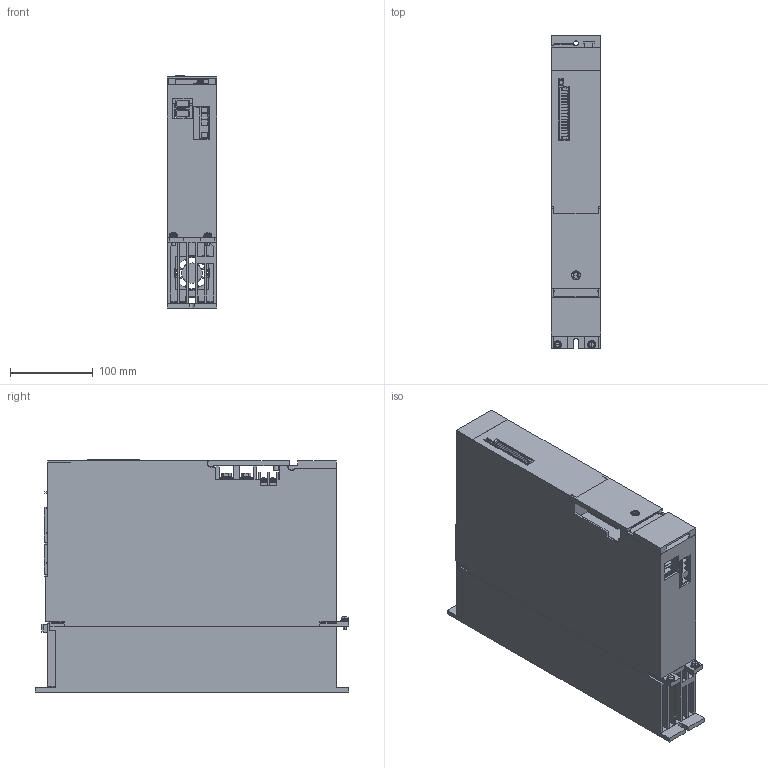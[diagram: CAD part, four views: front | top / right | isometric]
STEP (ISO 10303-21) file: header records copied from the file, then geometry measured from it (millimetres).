
FILE_DESCRIPTION((''),'2;1');
FILE_NAME('MR-J5D1-500G4A_ASM','2021-03-23T19:58:16',('VX25986'),(''),'CREO PARAMETRIC BY PTC INC, 2020184','CREO PARAMETRIC BY PTC INC, 2020184','');
FILE_SCHEMA(('CONFIG_CONTROL_DESIGN'));
Length unit declared in the file: millimetre
Products named in the file (27): J5D-W60-FIN; J5D1-W60-CASE; J5D-W60-COVER1; J5D-W60-COVER2; J5D-LOCK; J5D-W60-FAN; J5D-LENZ; J5D-COV-CN40A; J5D-COV-CN40B; J5D-COV-CN7; J5D-COV-CN8; FAN40; J5D-CN1A; J5D-CN2A; J5D-CN3; J5D-CN4; J5D-CN5; J5D-CN8; J5D-CN40A; J5D-CN40B; J5D-TE2; J5D-TE3; J5D-CNP3; SW-PW-P-NA-M4X10; SW-PW-P-NA-M5X12; SW-PW-P-UP-M6X18; MR-J5D1-500G4A_ASM
Assembly tree (32 placements, depth 2):
  MR-J5D1-500G4A_ASM
    J5D-W60-FIN
    J5D1-W60-CASE
    J5D-W60-COVER1
    J5D-W60-COVER2
    J5D-LOCK
    J5D-W60-FAN
    J5D-LENZ
    J5D-COV-CN40A
    J5D-COV-CN40B
    J5D-COV-CN7
    J5D-COV-CN8
    FAN40
    J5D-CN1A  x2
    J5D-CN2A  x2
    J5D-CN3
    J5D-CN4
    J5D-CN5
    J5D-CN8
    J5D-CN40A
    J5D-CN40B
    J5D-TE2
    J5D-TE3
    J5D-CNP3
    SW-PW-P-NA-M4X10  x3
    SW-PW-P-NA-M5X12  x2
    SW-PW-P-UP-M6X18  x2
Bounding box: 60 x 380 x 281.3 mm (x, y, z)
Volume: 1334463 mm3; surface area: 828613.3 mm2
Topology: 33 solids, 37 shells, 1279 faces, 3372 edges, 2227 vertices
Faces by surface type: plane 1032, cylinder 217, cone 10, torus 10, sphere 10
Entity records: 35206 total; most frequent: CARTESIAN_POINT 6164, ORIENTED_EDGE 5946, DIRECTION 5748, EDGE_CURVE 2977, VECTOR 2540, LINE 2540, VERTEX_POINT 1977, AXIS2_PLACEMENT_3D 1604
